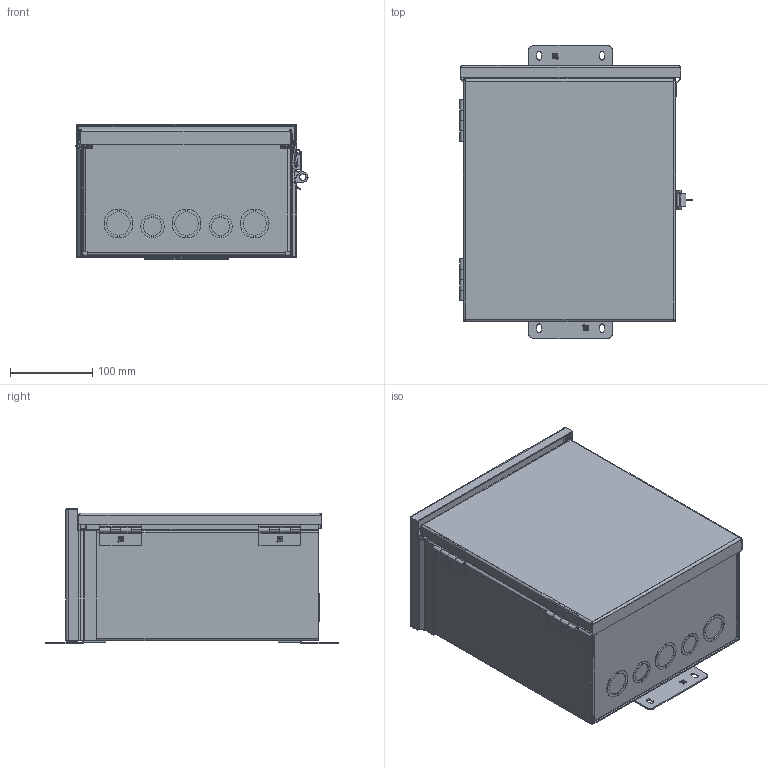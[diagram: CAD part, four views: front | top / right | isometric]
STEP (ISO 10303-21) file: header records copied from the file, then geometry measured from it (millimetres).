
FILE_DESCRIPTION (( 'STEP AP203' ), '1' );
FILE_NAME ('A12R106HCR.STEP', '2012-01-31T19:52:32', ( 'Hoffman User' ), ( 'Hoffman Enclosures' ), 'SwSTEP 2.0', 'SolidWorks 2010', '' );
FILE_SCHEMA (( 'CONFIG_CONTROL_DESIGN' ));
Length unit declared in the file: inch
Products named in the file (19): 87921417; A12R106HCR; 89055813_Closed; 43374005; 43373003; 89051789_Closed; 43372005; 43108001_CLOSE; 89049478_89047041; 89049479; 89049480; 66162007; 43110003; 43107001; 54106001; 66162003; 89049553; 89049554; 89049555
Assembly tree (23 placements, depth 5):
  A12R106HCR
    89055813_Closed
      89051789_Closed
        43108001_CLOSE  x2
          89049478_89047041
          89049479
          89049480
        66162007
        43372005
      54106001  x4
      43374005
      43373003
      87921417
      43110003
      43107001  x2
      66162003
        89049553
        89049554
        89049555
Bounding box: 281.43 x 355.47 x 164.87 mm (x, y, z)
Volume: 581417.9 mm3; surface area: 834811.6 mm2
Topology: 21 solids, 21 shells, 1188 faces, 2860 edges, 1786 vertices
Faces by surface type: plane 631, cylinder 236, bspline 221, sphere 44, torus 32, cone 24
Entity records: 31237 total; most frequent: CARTESIAN_POINT 9928, ORIENTED_EDGE 4052, DIRECTION 3722, EDGE_CURVE 2026, LINE 1302, VECTOR 1302, VERTEX_POINT 1244, AXIS2_PLACEMENT_3D 1210
